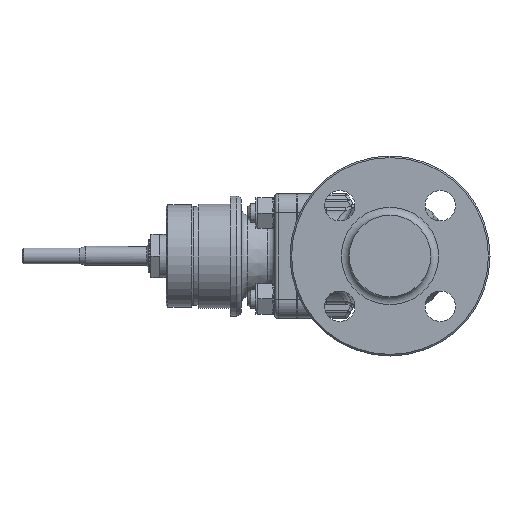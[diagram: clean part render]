
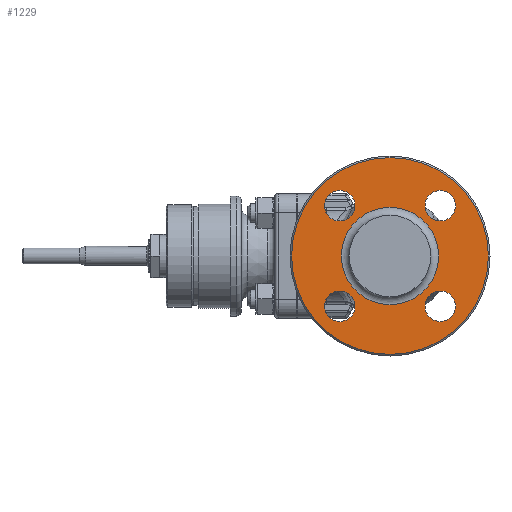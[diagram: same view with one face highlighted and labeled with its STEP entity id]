
A CAD part, left-side view. The second image highlights one B-rep face of the part: STEP entity #1229.
In plain terms, the highlighted planar face has unit normal (-1, 0, 0).
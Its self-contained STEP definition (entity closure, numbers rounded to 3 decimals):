
#447=PLANE('',#7231);
#994=FACE_BOUND('',#2172,.T.);
#995=FACE_BOUND('',#2173,.T.);
#996=FACE_BOUND('',#2174,.T.);
#997=FACE_BOUND('',#2175,.T.);
#998=FACE_BOUND('',#2176,.T.);
#999=FACE_BOUND('',#2177,.T.);
#1229=ADVANCED_FACE('',(#994,#995,#996,#997,#998,#999),#447,.T.);
#2172=EDGE_LOOP('',(#3325));
#2173=EDGE_LOOP('',(#3326));
#2174=EDGE_LOOP('',(#3327));
#2175=EDGE_LOOP('',(#3328));
#2176=EDGE_LOOP('',(#3329));
#2177=EDGE_LOOP('',(#3330));
#3325=ORIENTED_EDGE('',*,*,#5903,.T.);
#3326=ORIENTED_EDGE('',*,*,#5904,.F.);
#3327=ORIENTED_EDGE('',*,*,#5905,.F.);
#3328=ORIENTED_EDGE('',*,*,#5906,.F.);
#3329=ORIENTED_EDGE('',*,*,#5907,.F.);
#3330=ORIENTED_EDGE('',*,*,#5908,.T.);
#5255=VERTEX_POINT('',#11354);
#5256=VERTEX_POINT('',#11356);
#5257=VERTEX_POINT('',#11358);
#5258=VERTEX_POINT('',#11360);
#5259=VERTEX_POINT('',#11362);
#5260=VERTEX_POINT('',#11364);
#5903=EDGE_CURVE('',#5255,#5255,#6751,.T.);
#5904=EDGE_CURVE('',#5256,#5256,#6752,.T.);
#5905=EDGE_CURVE('',#5257,#5257,#6753,.T.);
#5906=EDGE_CURVE('',#5258,#5258,#6754,.T.);
#5907=EDGE_CURVE('',#5259,#5259,#6755,.T.);
#5908=EDGE_CURVE('',#5260,#5260,#6756,.T.);
#6751=CIRCLE('',#7225,61.5);
#6752=CIRCLE('',#7226,9.55);
#6753=CIRCLE('',#7227,9.55);
#6754=CIRCLE('',#7228,9.55);
#6755=CIRCLE('',#7229,9.55);
#6756=CIRCLE('',#7230,30.4);
#7225=AXIS2_PLACEMENT_3D('',#11353,#8175,#8176);
#7226=AXIS2_PLACEMENT_3D('',#11355,#8177,#8178);
#7227=AXIS2_PLACEMENT_3D('',#11357,#8179,#8180);
#7228=AXIS2_PLACEMENT_3D('',#11359,#8181,#8182);
#7229=AXIS2_PLACEMENT_3D('',#11361,#8183,#8184);
#7230=AXIS2_PLACEMENT_3D('',#11363,#8185,#8186);
#7231=AXIS2_PLACEMENT_3D('',#11365,#8187,#8188);
#8175=DIRECTION('',(-1.,0.,0.));
#8176=DIRECTION('',(0.,0.,1.));
#8177=DIRECTION('',(-1.,0.,0.));
#8178=DIRECTION('',(0.,0.,1.));
#8179=DIRECTION('',(-1.,0.,0.));
#8180=DIRECTION('',(0.,0.,1.));
#8181=DIRECTION('',(-1.,0.,0.));
#8182=DIRECTION('',(0.,0.,1.));
#8183=DIRECTION('',(-1.,0.,0.));
#8184=DIRECTION('',(0.,0.,1.));
#8185=DIRECTION('',(1.,0.,0.));
#8186=DIRECTION('',(0.,0.,1.));
#8187=DIRECTION('',(-1.,0.,0.));
#8188=DIRECTION('',(0.,0.,1.));
#11353=CARTESIAN_POINT('',(-98.,0.,0.));
#11354=CARTESIAN_POINT('',(-98.,0.,61.5));
#11355=CARTESIAN_POINT('',(-98.,-31.431,31.431));
#11356=CARTESIAN_POINT('',(-98.,-31.431,40.981));
#11357=CARTESIAN_POINT('',(-98.,-31.431,-31.431));
#11358=CARTESIAN_POINT('',(-98.,-31.431,-21.881));
#11359=CARTESIAN_POINT('',(-98.,31.431,-31.431));
#11360=CARTESIAN_POINT('',(-98.,31.431,-21.881));
#11361=CARTESIAN_POINT('',(-98.,31.431,31.431));
#11362=CARTESIAN_POINT('',(-98.,31.431,40.981));
#11363=CARTESIAN_POINT('',(-98.,0.,0.));
#11364=CARTESIAN_POINT('',(-98.,0.,30.4));
#11365=CARTESIAN_POINT('',(-98.,62.5,0.));
